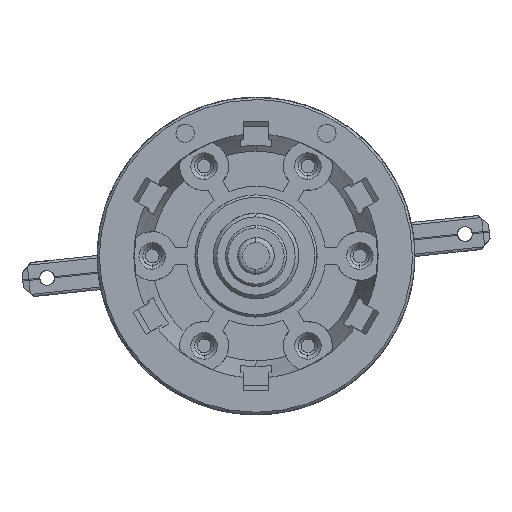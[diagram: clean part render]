
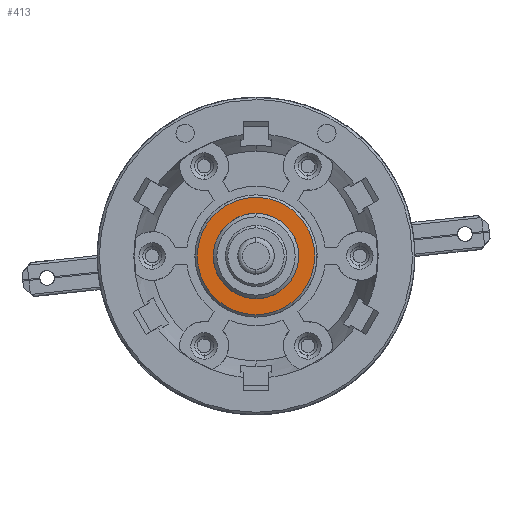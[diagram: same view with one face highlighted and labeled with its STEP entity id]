
A CAD part, left-side view. The second image highlights one B-rep face of the part: STEP entity #413.
In plain terms, the highlighted free-form (B-spline) face has degree [1, 1] with [2, 2] control points.
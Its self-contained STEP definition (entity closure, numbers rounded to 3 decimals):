
#413=ADVANCED_FACE('',(#892,#503),#6824,.T.);
#503=FACE_BOUND('',#1365,.T.);
#892=FACE_OUTER_BOUND('',#1364,.T.);
#1364=EDGE_LOOP('',(#3676,#3677,#3678));
#1365=EDGE_LOOP('',(#3679,#3680,#3681,#3682));
#3676=ORIENTED_EDGE('',*,*,#5308,.F.);
#3677=ORIENTED_EDGE('',*,*,#5312,.T.);
#3678=ORIENTED_EDGE('',*,*,#5310,.T.);
#3679=ORIENTED_EDGE('',*,*,#5317,.T.);
#3680=ORIENTED_EDGE('',*,*,#5313,.T.);
#3681=ORIENTED_EDGE('',*,*,#5311,.T.);
#3682=ORIENTED_EDGE('',*,*,#5443,.T.);
#5308=EDGE_CURVE('',#6291,#6290,#7232,.T.);
#5310=EDGE_CURVE('',#6292,#6290,#7233,.T.);
#5311=EDGE_CURVE('',#6293,#6378,#7234,.T.);
#5312=EDGE_CURVE('',#6291,#6292,#7235,.T.);
#5313=EDGE_CURVE('',#6295,#6293,#7236,.T.);
#5317=EDGE_CURVE('',#6294,#6295,#7239,.T.);
#5443=EDGE_CURVE('',#6378,#6294,#7319,.T.);
#6290=VERTEX_POINT('',#15658);
#6291=VERTEX_POINT('',#15659);
#6292=VERTEX_POINT('',#15660);
#6293=VERTEX_POINT('',#15661);
#6294=VERTEX_POINT('',#15662);
#6295=VERTEX_POINT('',#15663);
#6378=VERTEX_POINT('',#15746);
#6824=B_SPLINE_SURFACE_WITH_KNOTS('',1,1,((#14251,#14252),(#14253,#14254)),
.UNSPECIFIED.,.F.,.F.,.F.,(2,2),(2,2),(-4.896,4.896),(-0.096,9.696),.UNSPECIFIED.);
#7232=(
BOUNDED_CURVE()
B_SPLINE_CURVE(2,(#11590,#11591,#11592),.UNSPECIFIED.,.F.,.F.)
B_SPLINE_CURVE_WITH_KNOTS((3,3),(-7.54,0.),.UNSPECIFIED.)
CURVE()
GEOMETRIC_REPRESENTATION_ITEM()
RATIONAL_B_SPLINE_CURVE((1.,0.707,1.))
REPRESENTATION_ITEM('')
);
#7233=(
BOUNDED_CURVE()
B_SPLINE_CURVE(2,(#11595,#11596,#11597,#11598,#11599),.UNSPECIFIED.,.F.,
.F.)
B_SPLINE_CURVE_WITH_KNOTS((3,2,3),(15.08,22.619,30.159),
.UNSPECIFIED.)
CURVE()
GEOMETRIC_REPRESENTATION_ITEM()
RATIONAL_B_SPLINE_CURVE((1.,0.707,1.,0.707,1.))
REPRESENTATION_ITEM('')
);
#7234=(
BOUNDED_CURVE()
B_SPLINE_CURVE(2,(#11600,#11601,#11602),.UNSPECIFIED.,.F.,.F.)
B_SPLINE_CURVE_WITH_KNOTS((3,3),(-21.991,-16.493),.UNSPECIFIED.)
CURVE()
GEOMETRIC_REPRESENTATION_ITEM()
RATIONAL_B_SPLINE_CURVE((1.,0.707,1.))
REPRESENTATION_ITEM('')
);
#7235=(
BOUNDED_CURVE()
B_SPLINE_CURVE(2,(#11603,#11604,#11605),.UNSPECIFIED.,.F.,.F.)
B_SPLINE_CURVE_WITH_KNOTS((3,3),(7.54,15.08),.UNSPECIFIED.)
CURVE()
GEOMETRIC_REPRESENTATION_ITEM()
RATIONAL_B_SPLINE_CURVE((1.,0.707,1.))
REPRESENTATION_ITEM('')
);
#7236=(
BOUNDED_CURVE()
B_SPLINE_CURVE(2,(#11606,#11607,#11608),.UNSPECIFIED.,.F.,.F.)
B_SPLINE_CURVE_WITH_KNOTS((3,3),(-5.498,0.),.UNSPECIFIED.)
CURVE()
GEOMETRIC_REPRESENTATION_ITEM()
RATIONAL_B_SPLINE_CURVE((1.,0.707,1.))
REPRESENTATION_ITEM('')
);
#7239=(
BOUNDED_CURVE()
B_SPLINE_CURVE(2,(#11619,#11620,#11621),.UNSPECIFIED.,.F.,.F.)
B_SPLINE_CURVE_WITH_KNOTS((3,3),(-10.996,-5.498),.UNSPECIFIED.)
CURVE()
GEOMETRIC_REPRESENTATION_ITEM()
RATIONAL_B_SPLINE_CURVE((1.,0.707,1.))
REPRESENTATION_ITEM('')
);
#7319=(
BOUNDED_CURVE()
B_SPLINE_CURVE(2,(#11993,#11994,#11995),.UNSPECIFIED.,.F.,.F.)
B_SPLINE_CURVE_WITH_KNOTS((3,3),(-16.493,-10.996),.UNSPECIFIED.)
CURVE()
GEOMETRIC_REPRESENTATION_ITEM()
RATIONAL_B_SPLINE_CURVE((1.,0.707,1.))
REPRESENTATION_ITEM('')
);
#11590=CARTESIAN_POINT('',(-1.,0.,-4.8));
#11591=CARTESIAN_POINT('',(-1.,4.8,-4.8));
#11592=CARTESIAN_POINT('',(-1.,4.8,0.));
#11595=CARTESIAN_POINT('',(-1.,-4.8,0.));
#11596=CARTESIAN_POINT('',(-1.,-4.8,4.8));
#11597=CARTESIAN_POINT('',(-1.,0.,4.8));
#11598=CARTESIAN_POINT('',(-1.,4.8,4.8));
#11599=CARTESIAN_POINT('',(-1.,4.8,0.));
#11600=CARTESIAN_POINT('',(-1.,3.5,0.));
#11601=CARTESIAN_POINT('',(-1.,3.5,3.5));
#11602=CARTESIAN_POINT('',(-1.,0.,3.5));
#11603=CARTESIAN_POINT('',(-1.,0.,-4.8));
#11604=CARTESIAN_POINT('',(-1.,-4.8,-4.8));
#11605=CARTESIAN_POINT('',(-1.,-4.8,0.));
#11606=CARTESIAN_POINT('',(-1.,0.,-3.5));
#11607=CARTESIAN_POINT('',(-1.,3.5,-3.5));
#11608=CARTESIAN_POINT('',(-1.,3.5,0.));
#11619=CARTESIAN_POINT('',(-1.,-3.5,0.));
#11620=CARTESIAN_POINT('',(-1.,-3.5,-3.5));
#11621=CARTESIAN_POINT('',(-1.,0.,-3.5));
#11993=CARTESIAN_POINT('',(-1.,0.,3.5));
#11994=CARTESIAN_POINT('',(-1.,-3.5,3.5));
#11995=CARTESIAN_POINT('',(-1.,-3.5,0.));
#14251=CARTESIAN_POINT('',(-1.,4.896,4.896));
#14252=CARTESIAN_POINT('',(-1.,-4.896,4.896));
#14253=CARTESIAN_POINT('',(-1.,4.896,-4.896));
#14254=CARTESIAN_POINT('',(-1.,-4.896,-4.896));
#15658=CARTESIAN_POINT('',(-1.,4.8,0.));
#15659=CARTESIAN_POINT('',(-1.,0.,-4.8));
#15660=CARTESIAN_POINT('',(-1.,-4.8,0.));
#15661=CARTESIAN_POINT('',(-1.,3.5,0.));
#15662=CARTESIAN_POINT('',(-1.,-3.5,0.));
#15663=CARTESIAN_POINT('',(-1.,0.,-3.5));
#15746=CARTESIAN_POINT('',(-1.,0.,3.5));
